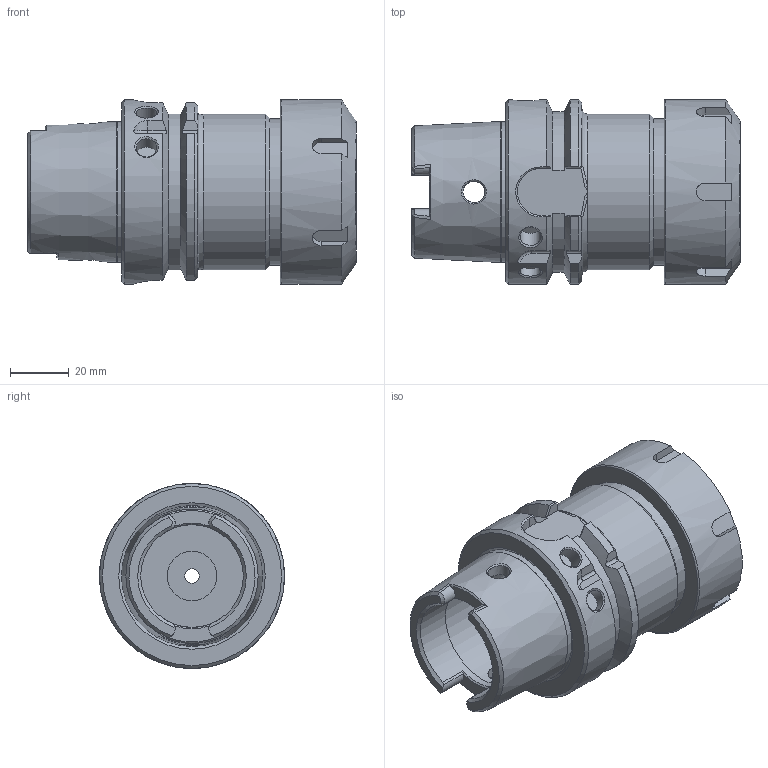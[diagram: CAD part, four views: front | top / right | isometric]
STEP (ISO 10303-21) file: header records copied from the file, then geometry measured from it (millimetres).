
FILE_DESCRIPTION(/* description */ (''),/* implementation_level */ '2;1');
FILE_NAME(/* name */ 'HSK63A-ER40-80.stp',/* time_stamp */ '2025-09-30T13:09:35+03:00',/* author */ ('User'),/* organization */ (''),/* preprocessor_version */ 'ST-DEVELOPER v19.2',/* originating_system */ 'Autodesk Inventor 2024',/* authorisation */ '');
FILE_SCHEMA (('AUTOMOTIVE_DESIGN { 1 0 10303 214 3 1 1 }'));
Length unit declared in the file: millimetre
Products named in the file (3): HSK63A-ER40-75; ER25-M; HSK63A-ER40-75_1
Assembly tree (2 placements, depth 2):
  HSK63A-ER40-75
    ER25-M
    HSK63A-ER40-75_1
Bounding box: 112 x 63 x 63 mm (x, y, z)
Volume: 168732.2 mm3; surface area: 46756.9 mm2
Topology: 2 solids, 2 shells, 185 faces, 509 edges, 337 vertices
Faces by surface type: plane 73, bspline 41, cylinder 37, cone 29, torus 5
Full cylindrical faces by diameter (mm): 5 x1, 7 x2, 10 x1, 16.917 x1, 33.568 x1, 34.96 x2, 38.96 x1, 40 x1, 47.9 x1, 48.5 x2, 50 x1, 53 x1, 63 x2
Entity records: 7870 total; most frequent: CARTESIAN_POINT 3535, ORIENTED_EDGE 1010, DIRECTION 685, EDGE_CURVE 505, VERTEX_POINT 337, AXIS2_PLACEMENT_3D 272, EDGE_LOOP 206, B_SPLINE_CURVE_WITH_KNOTS 191
